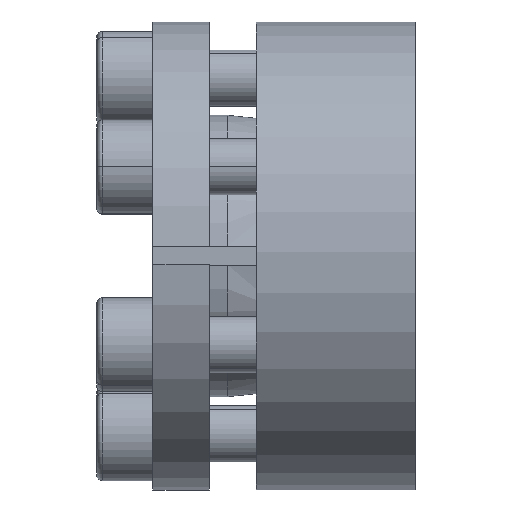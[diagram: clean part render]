
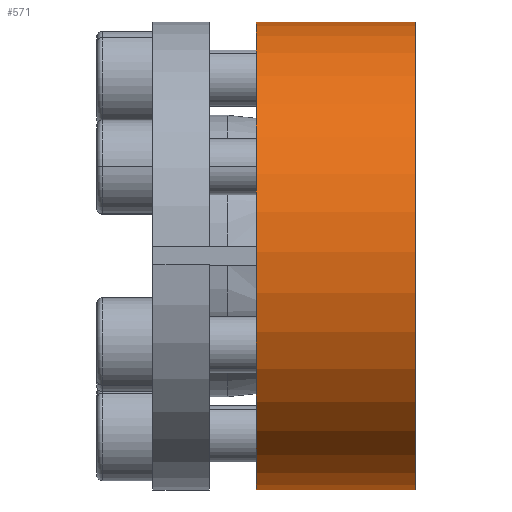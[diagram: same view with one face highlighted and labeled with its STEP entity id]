
A CAD part, top view. The second image highlights one B-rep face of the part: STEP entity #571.
In plain terms, the highlighted cylindrical face has radius 25 mm (diameter 50 mm), a partial arc.
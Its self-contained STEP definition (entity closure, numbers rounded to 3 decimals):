
#70 = CARTESIAN_POINT ( 'NONE',  ( -19.194, -21.737, -11.615 ) ) ;
#360 = DIRECTION ( 'NONE',  ( 0., -0.866, -0.5 ) ) ;
#510 = EDGE_CURVE ( 'NONE', #4636, #2141, #799, .T. ) ;
#571 = ADVANCED_FACE ( 'NONE', ( #3565 ), #4483, .T. ) ;
#799 = LINE ( 'NONE', #4607, #2921 ) ;
#950 = EDGE_CURVE ( 'NONE', #3654, #4847, #3444, .T. ) ;
#1059 = EDGE_CURVE ( 'NONE', #4636, #4847, #2979, .T. ) ;
#1136 = CARTESIAN_POINT ( 'NONE',  ( -2.194, -21.737, -11.615 ) ) ;
#1273 = EDGE_LOOP ( 'NONE', ( #1920, #4330, #2135, #2949 ) ) ;
#1483 = DIRECTION ( 'NONE',  ( -1., 0., 0. ) ) ;
#1484 = DIRECTION ( 'NONE',  ( 1., 0., 0. ) ) ;
#1920 = ORIENTED_EDGE ( 'NONE', *, *, #1059, .F. ) ;
#1931 = DIRECTION ( 'NONE',  ( 0., -0.866, -0.5 ) ) ;
#2073 = AXIS2_PLACEMENT_3D ( 'NONE', #4635, #4660, #4686 ) ;
#2135 = ORIENTED_EDGE ( 'NONE', *, *, #3100, .T. ) ;
#2141 = VERTEX_POINT ( 'NONE', #1136 ) ;
#2429 = VECTOR ( 'NONE', #1483, 1000. ) ;
#2757 = DIRECTION ( 'NONE',  ( -1., 0., 0. ) ) ;
#2921 = VECTOR ( 'NONE', #1484, 1000. ) ;
#2949 = ORIENTED_EDGE ( 'NONE', *, *, #950, .T. ) ;
#2979 = CIRCLE ( 'NONE', #2073, 25. ) ;
#3100 = EDGE_CURVE ( 'NONE', #2141, #3654, #3205, .T. ) ;
#3114 = DIRECTION ( 'NONE',  ( -1., 0., 0. ) ) ;
#3205 = CIRCLE ( 'NONE', #5073, 25. ) ;
#3322 = CARTESIAN_POINT ( 'NONE',  ( -19.194, -20.737, -13.348 ) ) ;
#3444 = LINE ( 'NONE', #4262, #2429 ) ;
#3565 = FACE_OUTER_BOUND ( 'NONE', #1273, .T. ) ;
#3654 = VERTEX_POINT ( 'NONE', #4260 ) ;
#3875 = AXIS2_PLACEMENT_3D ( 'NONE', #4425, #3114, #1931 ) ;
#4260 = CARTESIAN_POINT ( 'NONE',  ( -2.194, -20.737, -13.348 ) ) ;
#4262 = CARTESIAN_POINT ( 'NONE',  ( -19.194, -20.737, -13.348 ) ) ;
#4330 = ORIENTED_EDGE ( 'NONE', *, *, #510, .T. ) ;
#4425 = CARTESIAN_POINT ( 'NONE',  ( -19.194, 0.396, 0.008 ) ) ;
#4483 = CYLINDRICAL_SURFACE ( 'NONE', #3875, 25. ) ;
#4607 = CARTESIAN_POINT ( 'NONE',  ( -19.194, -21.737, -11.615 ) ) ;
#4635 = CARTESIAN_POINT ( 'NONE',  ( -19.194, 0.396, 0.008 ) ) ;
#4636 = VERTEX_POINT ( 'NONE', #70 ) ;
#4660 = DIRECTION ( 'NONE',  ( -1., 0., 0. ) ) ;
#4686 = DIRECTION ( 'NONE',  ( 0., -0.866, -0.5 ) ) ;
#4847 = VERTEX_POINT ( 'NONE', #3322 ) ;
#5051 = CARTESIAN_POINT ( 'NONE',  ( -2.194, 0.396, 0.008 ) ) ;
#5073 = AXIS2_PLACEMENT_3D ( 'NONE', #5051, #2757, #360 ) ;
